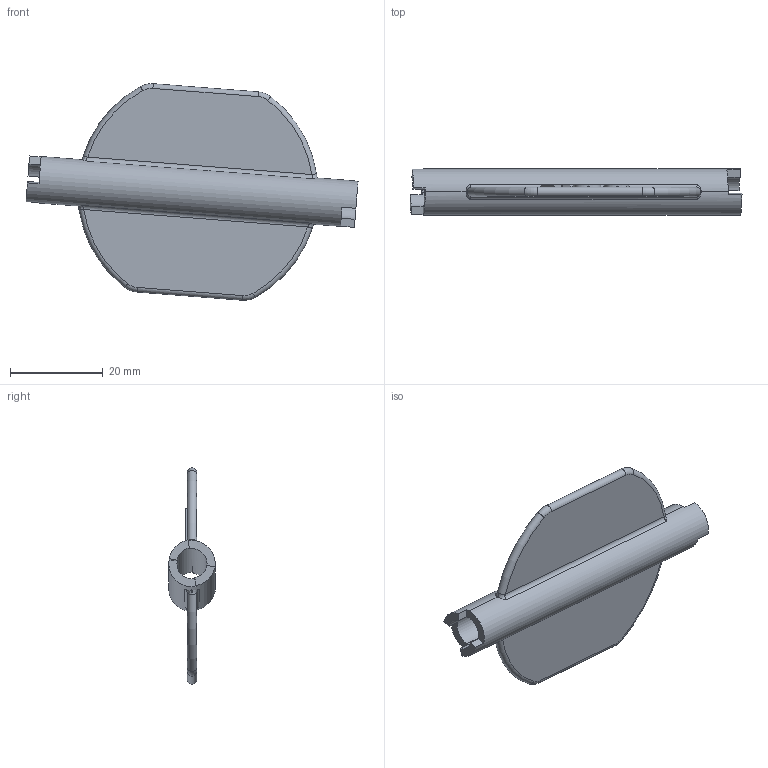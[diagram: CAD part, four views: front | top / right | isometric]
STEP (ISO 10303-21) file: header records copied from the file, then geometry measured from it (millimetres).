
FILE_DESCRIPTION((''),'2;1');
FILE_NAME('0000237116_PRT','2025-11-12T18:36:03',('Wyndorps'),(''),'CREO PARAMETRIC BY PTC INC, 2025010','CREO PARAMETRIC BY PTC INC, 2025010','');
FILE_SCHEMA(('CONFIG_CONTROL_DESIGN'));
Length unit declared in the file: millimetre
Products named in the file (1): 0000237116_PRT
Bounding box: 71.41 x 10 x 46.57 mm (x, y, z)
Volume: 6021.6 mm3; surface area: 6575.4 mm2
Topology: 1 solids, 1 shells, 106 faces, 285 edges, 186 vertices
Faces by surface type: plane 53, extrusion 23, cylinder 14, bspline 8, torus 8
Entity records: 4044 total; most frequent: CARTESIAN_POINT 1478, ORIENTED_EDGE 570, DIRECTION 436, EDGE_CURVE 285, VERTEX_POINT 186, VECTOR 174, LINE 151, AXIS2_PLACEMENT_3D 131
